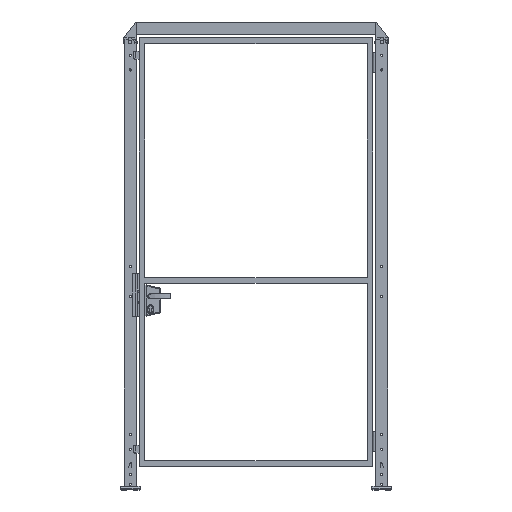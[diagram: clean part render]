
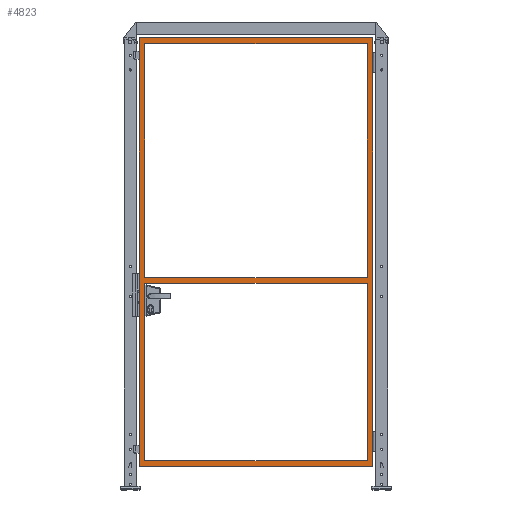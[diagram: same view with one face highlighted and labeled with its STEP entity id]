
A CAD part, top view. The second image highlights one B-rep face of the part: STEP entity #4823.
In plain terms, the highlighted planar face has unit normal (0, 0, 1).
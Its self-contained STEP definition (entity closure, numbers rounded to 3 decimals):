
#4823=ADVANCED_FACE('',(#9878,#9879,#9880),#9881,.F.);
#9878=FACE_BOUND('',#17852,.T.);
#9879=FACE_OUTER_BOUND('',#17853,.T.);
#9880=FACE_BOUND('',#17854,.T.);
#9881=PLANE('',#17855);
#17852=EDGE_LOOP('',(#32088,#32089,#32090,#32091));
#17853=EDGE_LOOP('',(#32092,#32093,#32094,#32095));
#17854=EDGE_LOOP('',(#32096,#32097,#32098,#32099));
#17855=AXIS2_PLACEMENT_3D('',#32100,#32101,#32102);
#32088=ORIENTED_EDGE('',*,*,#37969,.F.);
#32089=ORIENTED_EDGE('',*,*,#37975,.T.);
#32090=ORIENTED_EDGE('',*,*,#37997,.T.);
#32091=ORIENTED_EDGE('',*,*,#38002,.F.);
#32092=ORIENTED_EDGE('',*,*,#38013,.F.);
#32093=ORIENTED_EDGE('',*,*,#38007,.F.);
#32094=ORIENTED_EDGE('',*,*,#37977,.F.);
#32095=ORIENTED_EDGE('',*,*,#38011,.F.);
#32096=ORIENTED_EDGE('',*,*,#37999,.F.);
#32097=ORIENTED_EDGE('',*,*,#37994,.F.);
#32098=ORIENTED_EDGE('',*,*,#38005,.T.);
#32099=ORIENTED_EDGE('',*,*,#38014,.T.);
#32100=CARTESIAN_POINT('',(615.0,135.0,15.0));
#32101=DIRECTION('',(0.,0.0,-1.0));
#32102=DIRECTION('',(-1.0,0.0,0.));
#37969=EDGE_CURVE('',#46828,#46831,#46832,.T.);
#37975=EDGE_CURVE('',#46828,#46839,#46841,.T.);
#37977=EDGE_CURVE('',#46843,#46844,#46845,.T.);
#37994=EDGE_CURVE('',#46871,#46869,#46873,.T.);
#37997=EDGE_CURVE('',#46839,#46875,#46877,.T.);
#37999=EDGE_CURVE('',#46869,#46879,#46880,.T.);
#38002=EDGE_CURVE('',#46831,#46875,#46883,.T.);
#38005=EDGE_CURVE('',#46871,#46885,#46887,.T.);
#38007=EDGE_CURVE('',#46844,#46889,#46890,.T.);
#38011=EDGE_CURVE('',#46893,#46843,#46895,.T.);
#38013=EDGE_CURVE('',#46889,#46893,#46897,.T.);
#38014=EDGE_CURVE('',#46885,#46879,#46898,.T.);
#46828=VERTEX_POINT('',#60680);
#46831=VERTEX_POINT('',#60684);
#46832=LINE('',#60685,#60686);
#46839=VERTEX_POINT('',#60696);
#46841=LINE('',#60699,#60700);
#46843=VERTEX_POINT('',#60702);
#46844=VERTEX_POINT('',#60703);
#46845=LINE('',#60704,#60705);
#46869=VERTEX_POINT('',#60741);
#46871=VERTEX_POINT('',#60744);
#46873=LINE('',#60747,#60748);
#46875=VERTEX_POINT('',#60750);
#46877=LINE('',#60753,#60754);
#46879=VERTEX_POINT('',#60756);
#46880=LINE('',#60757,#60758);
#46883=LINE('',#60762,#60763);
#46885=VERTEX_POINT('',#60765);
#46887=LINE('',#60768,#60769);
#46889=VERTEX_POINT('',#60771);
#46890=LINE('',#60772,#60773);
#46893=VERTEX_POINT('',#60777);
#46895=LINE('',#60780,#60781);
#46897=LINE('',#60783,#60784);
#46898=LINE('',#60785,#60786);
#60680=CARTESIAN_POINT('',(1185.0,2290.0,15.));
#60684=CARTESIAN_POINT('',(45.,2290.0,15.0));
#60685=CARTESIAN_POINT('',(615.0,2290.0,15.0));
#60686=VECTOR('',#67067,1.0);
#60696=CARTESIAN_POINT('',(1185.0,1090.0,15.));
#60699=CARTESIAN_POINT('',(1185.0,1220.0,15.));
#60700=VECTOR('',#67072,1.0);
#60702=CARTESIAN_POINT('',(15.0,120.0,15.0));
#60703=CARTESIAN_POINT('',(15.,2320.0,15.0));
#60704=CARTESIAN_POINT('',(15.0,135.0,15.0));
#60705=VECTOR('',#67073,1.0);
#60741=CARTESIAN_POINT('',(45.,1060.0,15.0));
#60744=CARTESIAN_POINT('',(1185.0,1060.0,15.));
#60747=CARTESIAN_POINT('',(615.0,1060.0,15.0));
#60748=VECTOR('',#67088,1.0);
#60750=CARTESIAN_POINT('',(45.,1090.0,15.0));
#60753=CARTESIAN_POINT('',(615.0,1090.0,15.0));
#60754=VECTOR('',#67090,1.0);
#60756=CARTESIAN_POINT('',(45.0,150.0,15.0));
#60757=CARTESIAN_POINT('',(45.,1220.0,15.0));
#60758=VECTOR('',#67091,1.0);
#60762=CARTESIAN_POINT('',(45.,1220.0,15.0));
#60763=VECTOR('',#67093,1.0);
#60765=CARTESIAN_POINT('',(1185.0,150.0,15.));
#60768=CARTESIAN_POINT('',(1185.0,1220.0,15.));
#60769=VECTOR('',#67095,1.0);
#60771=CARTESIAN_POINT('',(1215.0,2320.0,15.));
#60772=CARTESIAN_POINT('',(30.,2320.0,15.0));
#60773=VECTOR('',#67096,1.0);
#60777=CARTESIAN_POINT('',(1215.0,120.0,15.));
#60780=CARTESIAN_POINT('',(615.0,120.0,15.0));
#60781=VECTOR('',#67099,1.0);
#60783=CARTESIAN_POINT('',(1215.0,1220.0,15.));
#60784=VECTOR('',#67100,1.0);
#60785=CARTESIAN_POINT('',(615.0,150.0,15.0));
#60786=VECTOR('',#67101,1.0);
#67067=DIRECTION('',(-1.0,0.0,0.));
#67072=DIRECTION('',(0.,-1.0,0.));
#67073=DIRECTION('',(0.0,1.0,0.0));
#67088=DIRECTION('',(-1.0,0.0,0.));
#67090=DIRECTION('',(-1.0,0.0,0.));
#67091=DIRECTION('',(0.,-1.0,0.));
#67093=DIRECTION('',(0.,-1.0,0.));
#67095=DIRECTION('',(0.,-1.0,0.));
#67096=DIRECTION('',(1.0,0.,0.));
#67099=DIRECTION('',(-1.0,0.0,0.));
#67100=DIRECTION('',(0.,-1.0,0.));
#67101=DIRECTION('',(-1.0,0.0,0.));
